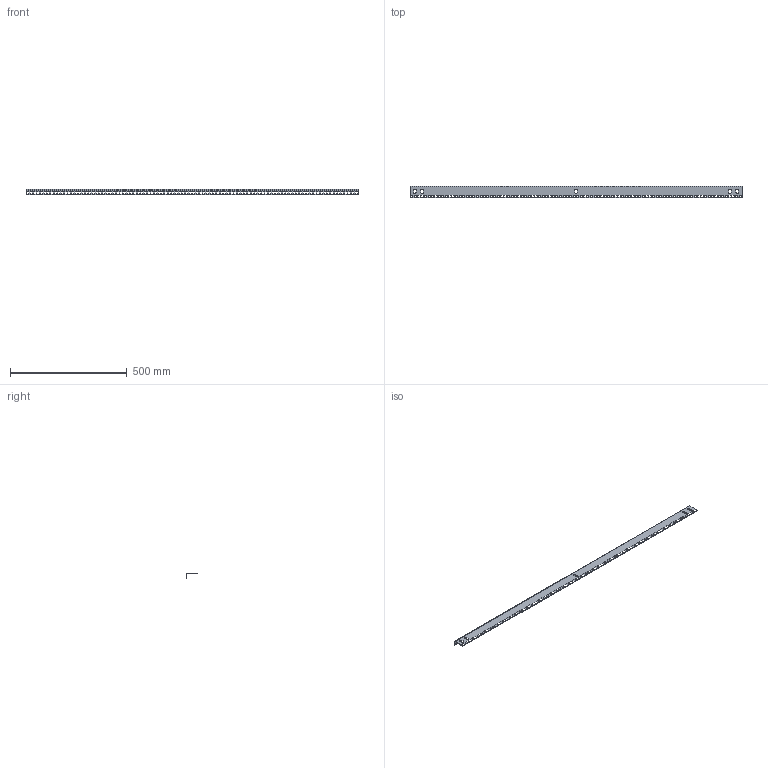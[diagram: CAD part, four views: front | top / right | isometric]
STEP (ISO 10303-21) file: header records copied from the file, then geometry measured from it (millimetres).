
FILE_DESCRIPTION( ( 'Unknown' ), '1' );
FILE_NAME( 'Q:/WEB DRAWINGS/STEP/CPR56SZPL.stp', 'Unknown', ( 'Unknown' ), ( 'Unknown' ), 'PSStep 15.0.49', 'Unknown', ' ' );
FILE_SCHEMA( ( 'AUTOMOTIVE_DESIGN { 1 0 10303 214 1 1 1 1 }' ) );
Length unit declared in the file: millimetre
Products named in the file (1): 1
Bounding box: 1423.16 x 50.8 x 22.63 mm (x, y, z)
Volume: 196038.9 mm3; surface area: 187956 mm2
Topology: 1 solids, 1 shells, 798 faces, 2388 edges, 1592 vertices
Faces by surface type: plane 786, cylinder 12
Entity records: 33504 total; most frequent: CARTESIAN_POINT 4779, ORIENTED_EDGE 4776, DIRECTION 4010, EDGE_CURVE 2388, LINE 2364, VECTOR 2364, VERTEX_POINT 1592, EDGE_LOOP 1192
